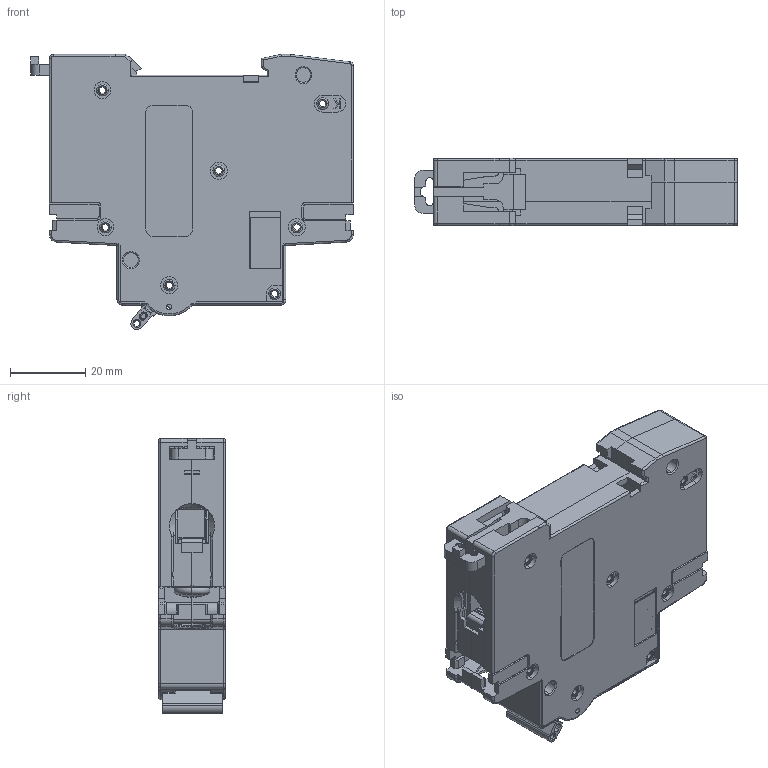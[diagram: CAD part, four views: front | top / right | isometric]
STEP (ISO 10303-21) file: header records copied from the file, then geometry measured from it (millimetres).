
FILE_DESCRIPTION((''),'2;1');
FILE_NAME('ZZP_KNB2_63_S-2_ASM','2018-02-09T',('Ghs'),('温州高能电气有限公司'),'PRO/ENGINEER BY PARAMETRIC TECHNOLOGY CORPORATION, 2013410','PRO/ENGINEER BY PARAMETRIC TECHNOLOGY CORPORATION, 2013410','');
FILE_SCHEMA(('CONFIG_CONTROL_DESIGN'));
Products named in the file (21): DI_ZHUO-KNB2-S; SHANG_GAI-KNB2-S; SHOU_BING-KNB2-S; JIE_XIAN_BAN_L-KNB2-S; JIE_XIAN_KUANG-KNB2-S; LUO_DING_KNB2-S; DIAN_CI_XI_TONG_2_63A_ZZ-KNB2-S_ASM; KA_KOU-KNB2-S; MAO_DING_ZP-KNB2-S; TIAO_JIE_LUO_SI-KNB2-63; TIAO_JIE_LUO_MU-KNB2-63; TIAO_JIE_LUO_SI-KNB2-63_ASM; SJ_ZHI_JIA-KNB2-S; JIE_XIAN_BAN_R-KNB2-S; DCT_ZHI_JIA-KNB2-S; DONG_CHU_XI_TONG-KNB2-S_ASM; GAN_GANG_CWB-KNB2-S; ZHOU-KNB2-S; DONG_CHU_JI_GOU-KNB2-S_ASM; FENG_KOU_PIAN-KNB2-S; ZZP_KNB2_63_S-2_ASM
Assembly tree (29 placements, depth 4):
  ZZP_KNB2_63_S-2_ASM
    DI_ZHUO-KNB2-S
    SHANG_GAI-KNB2-S
    SHOU_BING-KNB2-S
    DIAN_CI_XI_TONG_2_63A_ZZ-KNB2-S_ASM
      JIE_XIAN_BAN_L-KNB2-S
      JIE_XIAN_KUANG-KNB2-S
      LUO_DING_KNB2-S
    KA_KOU-KNB2-S
    MAO_DING_ZP-KNB2-S  x7
    TIAO_JIE_LUO_SI-KNB2-63_ASM
      TIAO_JIE_LUO_SI-KNB2-63
      TIAO_JIE_LUO_MU-KNB2-63
    DONG_CHU_JI_GOU-KNB2-S_ASM
      DONG_CHU_XI_TONG-KNB2-S_ASM
        SJ_ZHI_JIA-KNB2-S
        JIE_XIAN_BAN_R-KNB2-S
        JIE_XIAN_KUANG-KNB2-S
        LUO_DING_KNB2-S
        DCT_ZHI_JIA-KNB2-S
      GAN_GANG_CWB-KNB2-S
      ZHOU-KNB2-S
    FENG_KOU_PIAN-KNB2-S  x2
Bounding box: 86 x 17.8 x 73.29 mm (x, y, z)
Volume: 33938.5 mm3; surface area: 55380.8 mm2
Topology: 25 solids, 27 shells, 3527 faces, 9724 edges, 6302 vertices
Faces by surface type: plane 2342, cylinder 845, torus 136, cone 126, extrusion 34, bspline 34, sphere 10
Entity records: 102673 total; most frequent: CARTESIAN_POINT 20941, ORIENTED_EDGE 17464, DIRECTION 16425, EDGE_CURVE 8732, VECTOR 6593, LINE 6575, VERTEX_POINT 5732, AXIS2_PLACEMENT_3D 4916
